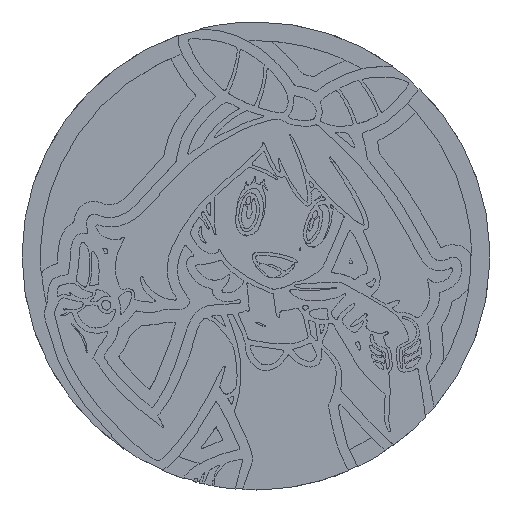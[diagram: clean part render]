
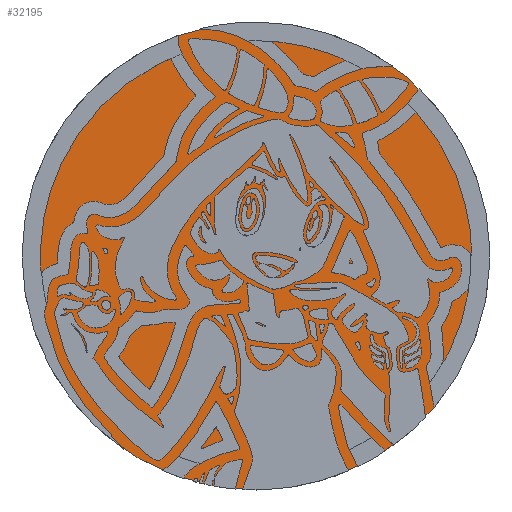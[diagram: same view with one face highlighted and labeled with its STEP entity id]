
A CAD part, top view. The second image highlights one B-rep face of the part: STEP entity #32195.
In plain terms, the highlighted planar face has unit normal (0, 0, 1).
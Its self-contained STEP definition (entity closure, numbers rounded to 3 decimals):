
#199=CIRCLE('',#33354,15.);
#644=PLANE('',#33353);
#1992=FACE_OUTER_BOUND('',#3839,.T.);
#3839=EDGE_LOOP('',(#26339));
#13462=VERTEX_POINT('',#57299);
#17924=EDGE_CURVE('',#13462,#13462,#199,.T.);
#26339=ORIENTED_EDGE('',*,*,#17924,.F.);
#32195=ADVANCED_FACE('',(#1992),#644,.T.);
#33353=AXIS2_PLACEMENT_3D('',#57298,#35432,#35433);
#33354=AXIS2_PLACEMENT_3D('',#57300,#35434,#35435);
#35432=DIRECTION('center_axis',(0.,0.,1.));
#35433=DIRECTION('ref_axis',(1.,0.,0.));
#35434=DIRECTION('center_axis',(0.,0.,-1.));
#35435=DIRECTION('ref_axis',(1.,0.,0.));
#57298=CARTESIAN_POINT('Origin',(15.,-15.,1.16));
#57299=CARTESIAN_POINT('',(0.,-15.,1.16));
#57300=CARTESIAN_POINT('Origin',(15.,-15.,1.16));
